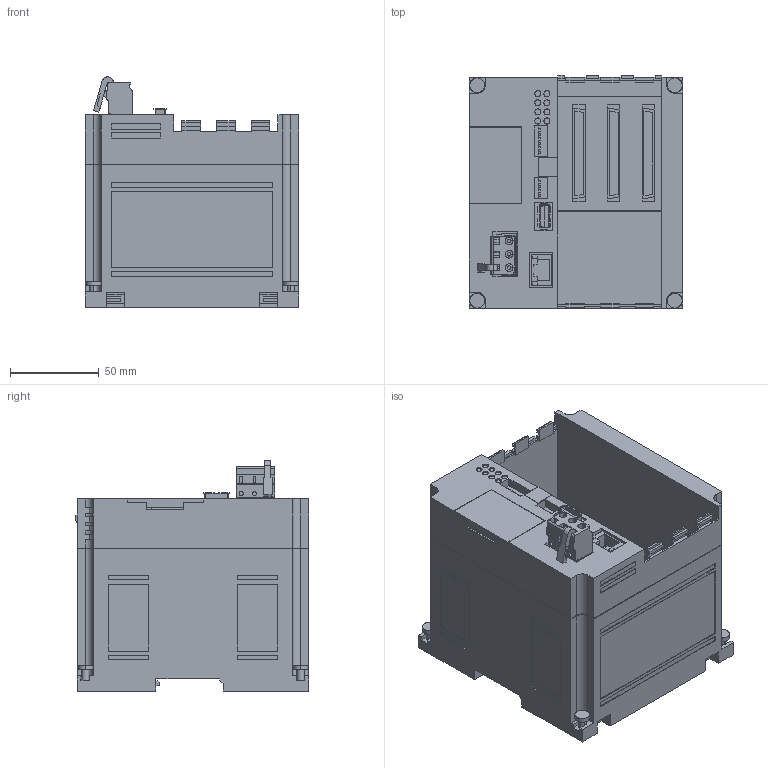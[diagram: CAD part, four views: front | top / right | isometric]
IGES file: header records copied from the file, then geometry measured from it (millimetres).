
Start section: SolidWorks IGES file using analytic representation for surfaces
Global section: file name: D:\YASKAWA\jepmc_mp2310_e.IGS; native system: SolidWorks 2006 by SolidWorks Corporation; preprocessor: SolidWorks 2006 by SolidWorks Corporation; author: yamanouchi; date: 130313.151237; units: millimetre
Bounding box: 120 x 131 x 129.36 mm (x, y, z)
Surface area: 148255 mm2 (no closed solid volume)
Topology: 0 solids, 0 shells, 1052 faces, 8686 edges, 8686 vertices
Faces by surface type: bspline 916, revolution 136
